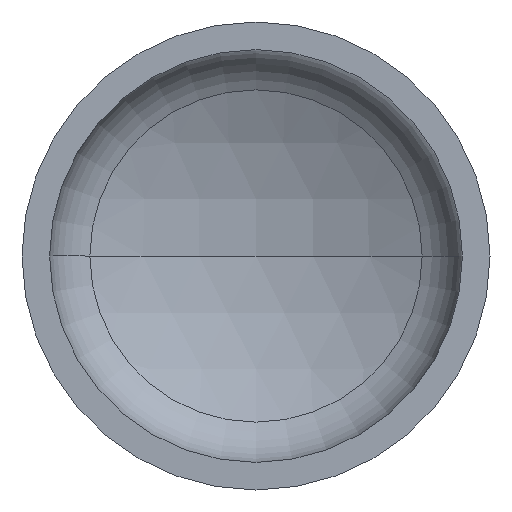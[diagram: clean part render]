
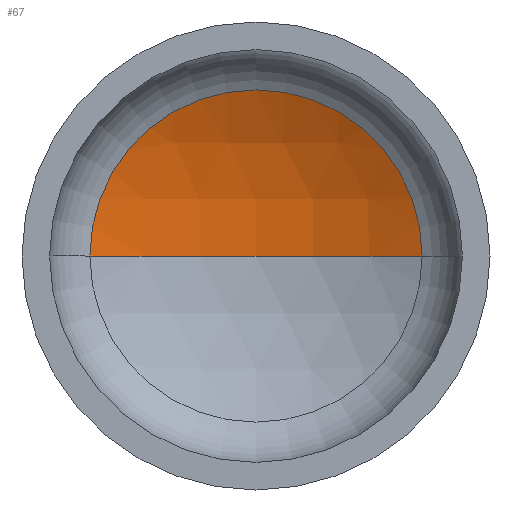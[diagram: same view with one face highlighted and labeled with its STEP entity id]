
A CAD part, front view. The second image highlights one B-rep face of the part: STEP entity #67.
In plain terms, the highlighted spherical face has radius 284 mm.
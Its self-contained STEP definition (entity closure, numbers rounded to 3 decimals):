
#5 = AXIS2_PLACEMENT_3D ( 'NONE', #348, #195, #407 ) ;
#17 = AXIS2_PLACEMENT_3D ( 'NONE', #144, #243, #400 ) ;
#36 = EDGE_LOOP ( 'NONE', ( #153, #152, #100 ) ) ;
#51 = CARTESIAN_POINT ( 'NONE',  ( 0., -135.129, 0. ) ) ;
#54 = VERTEX_POINT ( 'NONE', #280 ) ;
#64 = VERTEX_POINT ( 'NONE', #276 ) ;
#67 = ADVANCED_FACE ( 'NONE', ( #120 ), #179, .F. ) ;
#69 = AXIS2_PLACEMENT_3D ( 'NONE', #237, #238, #236 ) ;
#100 = ORIENTED_EDGE ( 'NONE', *, *, #356, .T. ) ;
#120 = FACE_OUTER_BOUND ( 'NONE', #36, .T. ) ;
#139 = CIRCLE ( 'NONE', #17, 126.25 ) ;
#144 = CARTESIAN_POINT ( 'NONE',  ( 0., 119.267, 0. ) ) ;
#152 = ORIENTED_EDGE ( 'NONE', *, *, #388, .T. ) ;
#153 = ORIENTED_EDGE ( 'NONE', *, *, #378, .F. ) ;
#166 = VERTEX_POINT ( 'NONE', #198 ) ;
#179 = SPHERICAL_SURFACE ( 'NONE', #69, 284. ) ;
#195 = DIRECTION ( 'NONE',  ( 0., 0., 1. ) ) ;
#198 = CARTESIAN_POINT ( 'NONE',  ( 0., 148.871, 0. ) ) ;
#211 = CIRCLE ( 'NONE', #258, 284. ) ;
#220 = DIRECTION ( 'NONE',  ( 0., 0., -1. ) ) ;
#236 = DIRECTION ( 'NONE',  ( -1., 0., 0. ) ) ;
#237 = CARTESIAN_POINT ( 'NONE',  ( 0., -135.129, 0. ) ) ;
#238 = DIRECTION ( 'NONE',  ( 0., 0., -1. ) ) ;
#243 = DIRECTION ( 'NONE',  ( 0., -1., 0. ) ) ;
#258 = AXIS2_PLACEMENT_3D ( 'NONE', #51, #220, #385 ) ;
#276 = CARTESIAN_POINT ( 'NONE',  ( -126.25, 119.267, 0. ) ) ;
#280 = CARTESIAN_POINT ( 'NONE',  ( 126.25, 119.267, 0. ) ) ;
#348 = CARTESIAN_POINT ( 'NONE',  ( 0., -135.129, 0. ) ) ;
#356 = EDGE_CURVE ( 'NONE', #54, #64, #139, .T. ) ;
#378 = EDGE_CURVE ( 'NONE', #166, #64, #394, .T. ) ;
#385 = DIRECTION ( 'NONE',  ( -1., 0., 0. ) ) ;
#388 = EDGE_CURVE ( 'NONE', #166, #54, #211, .T. ) ;
#394 = CIRCLE ( 'NONE', #5, 284. ) ;
#400 = DIRECTION ( 'NONE',  ( 1., 0., 0. ) ) ;
#407 = DIRECTION ( 'NONE',  ( 1., 0., 0. ) ) ;
